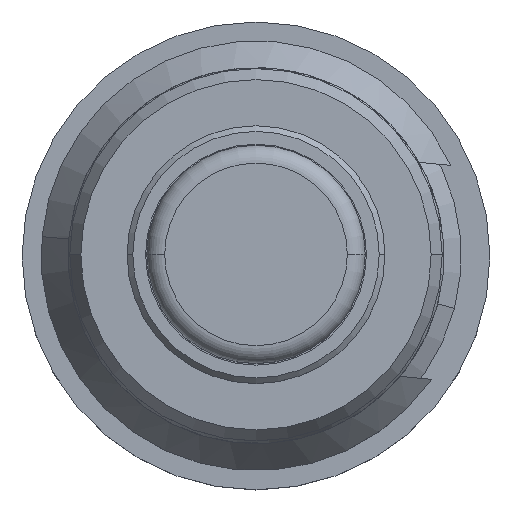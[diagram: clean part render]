
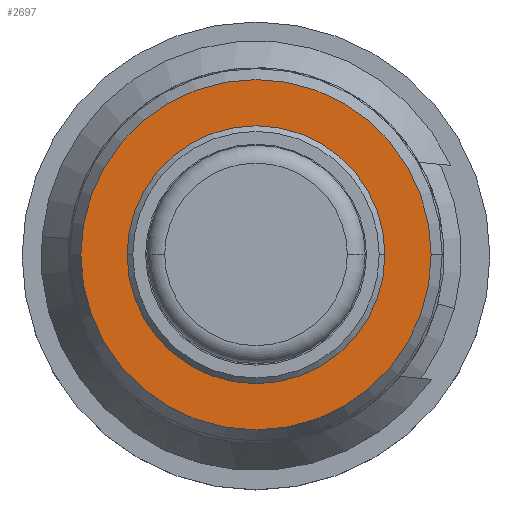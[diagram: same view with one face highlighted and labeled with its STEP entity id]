
A CAD part, top view. The second image highlights one B-rep face of the part: STEP entity #2697.
In plain terms, the highlighted planar face has unit normal (0, 0, 1).
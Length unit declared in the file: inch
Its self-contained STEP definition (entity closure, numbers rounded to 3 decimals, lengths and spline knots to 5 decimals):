
#81 = DIRECTION ( 'NONE',  ( -1., 0., 0. ) ) ;
#268 = FACE_BOUND ( 'NONE', #4466, .T. ) ;
#389 = CARTESIAN_POINT ( 'NONE',  ( 0.054, 0., -0.087 ) ) ;
#528 = CARTESIAN_POINT ( 'NONE',  ( 0., 0., -0.087 ) ) ;
#601 = EDGE_CURVE ( 'NONE', #1574, #4093, #4696, .T. ) ;
#622 = EDGE_CURVE ( 'NONE', #3463, #768, #3692, .T. ) ;
#690 = DIRECTION ( 'NONE',  ( 0., 0., 1. ) ) ;
#768 = VERTEX_POINT ( 'NONE', #389 ) ;
#902 = DIRECTION ( 'NONE',  ( 1., 0., 0. ) ) ;
#916 = ORIENTED_EDGE ( 'NONE', *, *, #622, .F. ) ;
#919 = EDGE_LOOP ( 'NONE', ( #2584, #1365 ) ) ;
#1019 = CARTESIAN_POINT ( 'NONE',  ( 0.07338, 0., -0.087 ) ) ;
#1040 = DIRECTION ( 'NONE',  ( 1., 0., 0. ) ) ;
#1051 = DIRECTION ( 'NONE',  ( 1., 0., 0. ) ) ;
#1095 = AXIS2_PLACEMENT_3D ( 'NONE', #4742, #2591, #2160 ) ;
#1234 = CARTESIAN_POINT ( 'NONE',  ( -0.07338, 0., -0.087 ) ) ;
#1263 = FACE_OUTER_BOUND ( 'NONE', #919, .T. ) ;
#1365 = ORIENTED_EDGE ( 'NONE', *, *, #601, .T. ) ;
#1518 = CARTESIAN_POINT ( 'NONE',  ( 0., 0.054, -0.087 ) ) ;
#1574 = VERTEX_POINT ( 'NONE', #1019 ) ;
#1992 = AXIS2_PLACEMENT_3D ( 'NONE', #528, #3125, #902 ) ;
#2104 = AXIS2_PLACEMENT_3D ( 'NONE', #3172, #690, #1051 ) ;
#2160 = DIRECTION ( 'NONE',  ( 1., 0., 0. ) ) ;
#2584 = ORIENTED_EDGE ( 'NONE', *, *, #2820, .T. ) ;
#2591 = DIRECTION ( 'NONE',  ( 0., 0., 1. ) ) ;
#2697 = ADVANCED_FACE ( 'NONE', ( #268, #1263 ), #3780, .F. ) ;
#2820 = EDGE_CURVE ( 'NONE', #4093, #1574, #3039, .T. ) ;
#3039 = CIRCLE ( 'NONE', #2104, 0.07338 ) ;
#3125 = DIRECTION ( 'NONE',  ( 0., 0., 1. ) ) ;
#3129 = EDGE_CURVE ( 'NONE', #768, #3463, #3217, .T. ) ;
#3172 = CARTESIAN_POINT ( 'NONE',  ( 0., 0., -0.087 ) ) ;
#3184 = CARTESIAN_POINT ( 'NONE',  ( -0.054, 0., -0.087 ) ) ;
#3217 = CIRCLE ( 'NONE', #1992, 0.054 ) ;
#3251 = DIRECTION ( 'NONE',  ( 0., 0., 1. ) ) ;
#3463 = VERTEX_POINT ( 'NONE', #3184 ) ;
#3554 = AXIS2_PLACEMENT_3D ( 'NONE', #1518, #4291, #81 ) ;
#3630 = CARTESIAN_POINT ( 'NONE',  ( 0., 0., -0.087 ) ) ;
#3692 = CIRCLE ( 'NONE', #4625, 0.054 ) ;
#3780 = PLANE ( 'NONE',  #3554 ) ;
#4093 = VERTEX_POINT ( 'NONE', #1234 ) ;
#4291 = DIRECTION ( 'NONE',  ( 0., 0., -1. ) ) ;
#4466 = EDGE_LOOP ( 'NONE', ( #4605, #916 ) ) ;
#4605 = ORIENTED_EDGE ( 'NONE', *, *, #3129, .F. ) ;
#4625 = AXIS2_PLACEMENT_3D ( 'NONE', #3630, #3251, #1040 ) ;
#4696 = CIRCLE ( 'NONE', #1095, 0.07338 ) ;
#4742 = CARTESIAN_POINT ( 'NONE',  ( 0., 0., -0.087 ) ) ;
